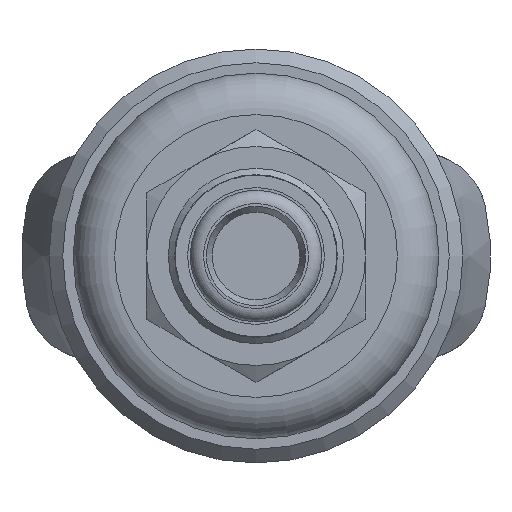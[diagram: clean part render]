
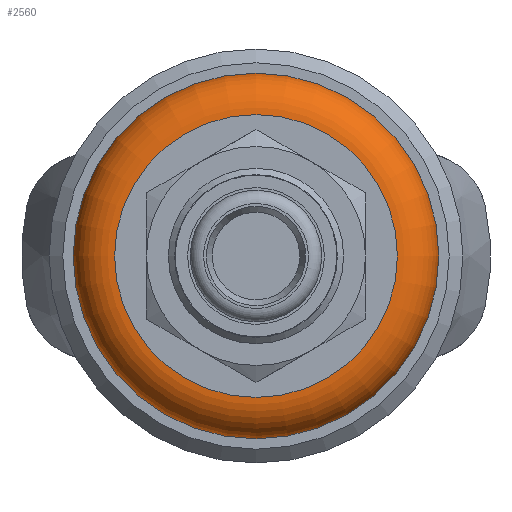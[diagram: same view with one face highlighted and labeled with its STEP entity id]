
A CAD part, front view. The second image highlights one B-rep face of the part: STEP entity #2560.
In plain terms, the highlighted toroidal (fillet/blend) face has major radius 10.25 mm and minor radius 3 mm.
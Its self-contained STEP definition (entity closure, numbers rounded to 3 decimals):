
#26=TOROIDAL_SURFACE($,#2825,10.25,3.);
#452=FACE_BOUND($,#827,.T.);
#582=FACE_OUTER_BOUND($,#826,.T.);
#826=EDGE_LOOP($,(#1876));
#827=EDGE_LOOP($,(#1877));
#1035=CIRCLE($,#2824,10.25);
#1036=CIRCLE($,#2826,13.25);
#1211=VERTEX_POINT($,#4172);
#1212=VERTEX_POINT($,#4175);
#1458=EDGE_CURVE($,#1211,#1211,#1035,.T.);
#1459=EDGE_CURVE($,#1212,#1212,#1036,.T.);
#1876=ORIENTED_EDGE($,*,*,#1458,.T.);
#1877=ORIENTED_EDGE($,*,*,#1459,.T.);
#2560=ADVANCED_FACE($,(#582,#452),#26,.T.);
#2824=AXIS2_PLACEMENT_3D($,#4173,#3339,#3340);
#2825=AXIS2_PLACEMENT_3D($,#4174,#3341,#3342);
#2826=AXIS2_PLACEMENT_3D($,#4176,#3343,#3344);
#3339=DIRECTION('center_axis',(0.,1.,0.));
#3340=DIRECTION('ref_axis',(1.,0.,0.));
#3341=DIRECTION('center_axis',(0.,1.,0.));
#3342=DIRECTION('ref_axis',(0.,0.,1.));
#3343=DIRECTION('center_axis',(0.,-1.,0.));
#3344=DIRECTION('ref_axis',(1.,0.,0.));
#4172=CARTESIAN_POINT('',(-10.25,0.,0.));
#4173=CARTESIAN_POINT('Origin',(0.,0.,0.));
#4174=CARTESIAN_POINT('Origin',(0.,3.,0.));
#4175=CARTESIAN_POINT('',(-13.25,3.,0.));
#4176=CARTESIAN_POINT('Origin',(0.,3.,0.));
